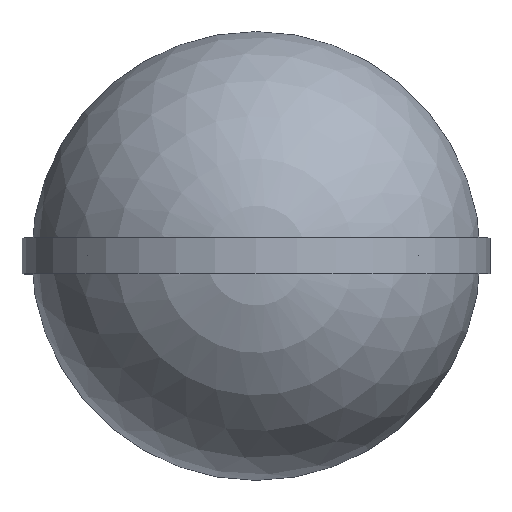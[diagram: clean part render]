
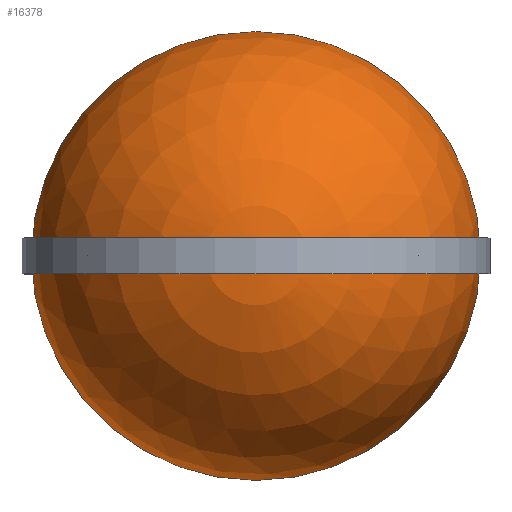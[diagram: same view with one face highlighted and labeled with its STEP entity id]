
A CAD part, top view. The second image highlights one B-rep face of the part: STEP entity #16378.
In plain terms, the highlighted spherical face has radius 187.5 mm.
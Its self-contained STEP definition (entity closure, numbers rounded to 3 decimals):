
#27=SPHERICAL_SURFACE('',#17597,187.5);
#1050=CIRCLE('',#17596,5.);
#1051=CIRCLE('',#17598,187.5);
#1052=CIRCLE('',#17599,5.);
#3840=ORIENTED_EDGE('',*,*,#5941,.T.);
#3841=ORIENTED_EDGE('',*,*,#5942,.T.);
#3842=ORIENTED_EDGE('',*,*,#5943,.F.);
#5941=EDGE_CURVE('',#7239,#7239,#1050,.F.);
#5942=EDGE_CURVE('',#7240,#7240,#1051,.F.);
#5943=EDGE_CURVE('',#7241,#7241,#1052,.F.);
#7239=VERTEX_POINT('',#24864);
#7240=VERTEX_POINT('',#24867);
#7241=VERTEX_POINT('',#24869);
#10107=EDGE_LOOP('',(#3840));
#10108=EDGE_LOOP('',(#3841));
#10109=EDGE_LOOP('',(#3842));
#11029=FACE_BOUND('',#10107,.T.);
#11030=FACE_BOUND('',#10108,.T.);
#11031=FACE_BOUND('',#10109,.T.);
#16378=ADVANCED_FACE('',(#11029,#11030,#11031),#27,.T.);
#17596=AXIS2_PLACEMENT_3D('',#24863,#20689,#20690);
#17597=AXIS2_PLACEMENT_3D('',#24865,#20691,#20692);
#17598=AXIS2_PLACEMENT_3D('',#24866,#20693,#20694);
#17599=AXIS2_PLACEMENT_3D('',#24868,#20695,#20696);
#20689=DIRECTION('',(0.712,0.,0.702));
#20690=DIRECTION('',(0.702,0.,-0.712));
#20691=DIRECTION('',(0.,0.,-1.));
#20692=DIRECTION('',(-1.,0.,0.));
#20693=DIRECTION('',(0.,0.,-1.));
#20694=DIRECTION('',(-1.,0.,0.));
#20695=DIRECTION('',(0.712,0.,-0.702));
#20696=DIRECTION('',(-0.702,0.,-0.712));
#24863=CARTESIAN_POINT('',(133.453,0.,131.612));
#24864=CARTESIAN_POINT('',(136.963,0.,128.052));
#24865=CARTESIAN_POINT('',(0.,0.,0.));
#24866=CARTESIAN_POINT('',(0.,0.,0.3));
#24867=CARTESIAN_POINT('',(-187.5,0.,0.3));
#24868=CARTESIAN_POINT('',(-133.453,0.,131.612));
#24869=CARTESIAN_POINT('',(-136.963,0.,128.052));
